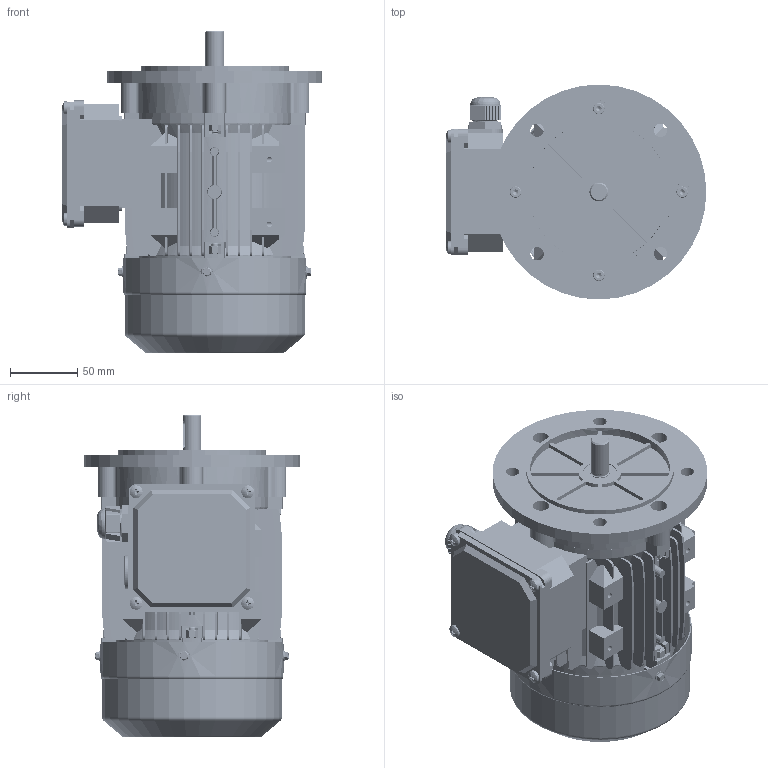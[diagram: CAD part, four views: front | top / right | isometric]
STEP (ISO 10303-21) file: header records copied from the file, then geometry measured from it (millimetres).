
FILE_DESCRIPTION (( 'STEP AP203' ), '1' );
FILE_NAME ('MS71S B5 3D蚾饜芞.STEP', '2024-06-01T08:51:25', ( 'User' ), ( 'China' ), 'SwSTEP 2.0', 'SolidWorks 2018', '' );
FILE_SCHEMA (( 'CONFIG_CONTROL_DESIGN' ));
Length unit declared in the file: millimetre
Products named in the file (20): 蚐猾25X14X4; hex washer head screw_as_AS-NZS 1427 HW - M4 x 6-N; 黑芛20X1.5; pan cross head screw_as_AS-NZS 1427 PC- M4 x 8-S; MS63-71諉盄碟菁釱; pan cross head screw_as_AS-NZS 1427 PC- M5 x 8-S; 8.034.07101MS71 S儂褲; MS63-71諉盄碟裔; 蹟杶郋M20X1.5; 8.013.07102MS71綴傷裔; 8.014.07102MS71B5傷裔; 蹟簸M20X1.5; 8.200.07101MS71 S蛌粣; MS71S B5 3D蚾饜芞; hexagon socket head cap screws gb_GB_FASTENER_SCREWS_HSHCS M5X25-S; hexagon socket head cap screw_as_AS 1420 - M5 x 25-S; spring lock washers--normal type gb_GB_FASTENER_WASHER_SW 5; hexagon nut (grades c) as_AS 1112.3 C- M5-S; hex nuts, style 1-grades ab gb_GB_FASTENER_NUT_SNAB1 M5-N; 8.306.07101MS71邧脯瑞欶
Assembly tree (42 placements, depth 2):
  MS71S B5 3D蚾饜芞
    8.034.07101MS71 S儂褲
    8.013.07102MS71綴傷裔
    8.200.07101MS71 S蛌粣
    hexagon socket head cap screw_as_AS 1420 - M5 x 25-S  x4
    hexagon nut (grades c) as_AS 1112.3 C- M5-S  x4
    8.306.07101MS71邧脯瑞欶
    hex washer head screw_as_AS-NZS 1427 HW - M4 x 6-N  x4
    pan cross head screw_as_AS-NZS 1427 PC- M4 x 8-S  x4
    pan cross head screw_as_AS-NZS 1427 PC- M5 x 8-S  x4
    蹟杶郋M20X1.5
    蹟簸M20X1.5
    hexagon socket head cap screws gb_GB_FASTENER_SCREWS_HSHCS M5X25-S  x4
    spring lock washers--normal type gb_GB_FASTENER_WASHER_SW 5  x4
    hex nuts, style 1-grades ab gb_GB_FASTENER_NUT_SNAB1 M5-N  x3
    蚐猾25X14X4
    黑芛20X1.5
    MS63-71諉盄碟菁釱
    MS63-71諉盄碟裔
    8.014.07102MS71B5傷裔
Bounding box: 194 x 160 x 240.1 mm (x, y, z)
Volume: 681443.5 mm3; surface area: 475935.8 mm2
Topology: 42 solids, 51 shells, 5989 faces, 14477 edges, 8652 vertices
Faces by surface type: plane 2194, cone 1968, cylinder 1559, bspline 146, torus 106, sphere 16
Entity records: 132437 total; most frequent: CARTESIAN_POINT 42660, ORIENTED_EDGE 18962, DIRECTION 17011, EDGE_CURVE 9481, VERTEX_POINT 6045, AXIS2_PLACEMENT_3D 5759, VECTOR 5493, LINE 5493
